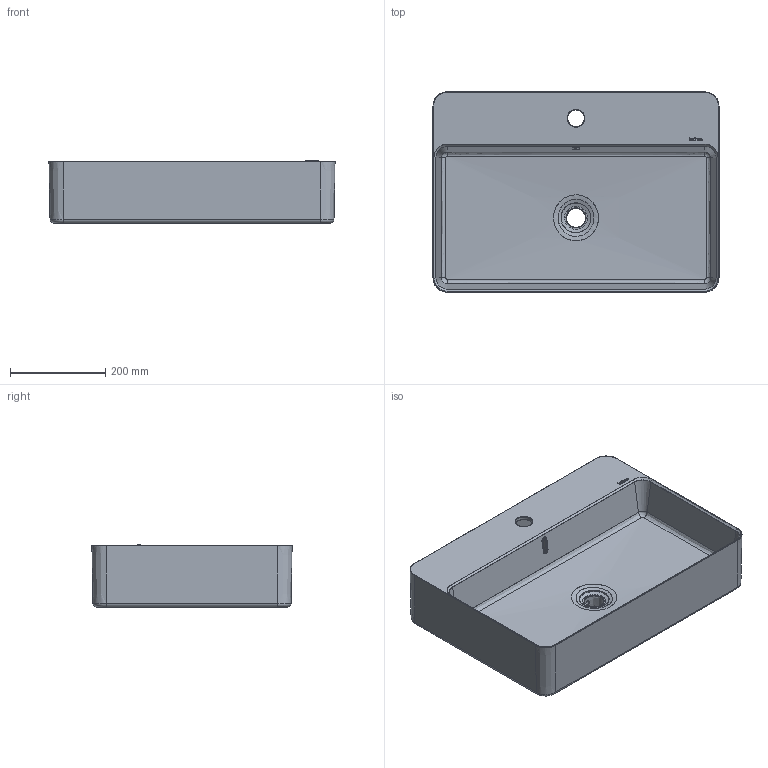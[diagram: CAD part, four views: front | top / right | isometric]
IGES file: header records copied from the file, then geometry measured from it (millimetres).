
Global section: file name: C:\Users\User\Desktop\Lavabos 3D\4127 Santo; native system: Rhinoceros ( Feb 26 2015 ); preprocessor: Trout Lake IGES 012 Feb 26 2015; date: 191022.045459; units: millimetre
Bounding box: 599.96 x 419.96 x 130.13 mm (x, y, z)
Surface area: 1024114.9 mm2 (no closed solid volume)
Topology: 0 solids, 0 shells, 225 faces, 1478 edges, 1461 vertices
Faces by surface type: bspline 225
